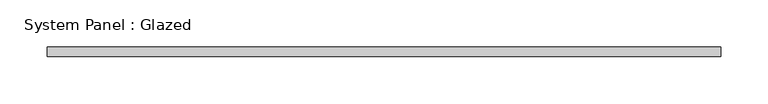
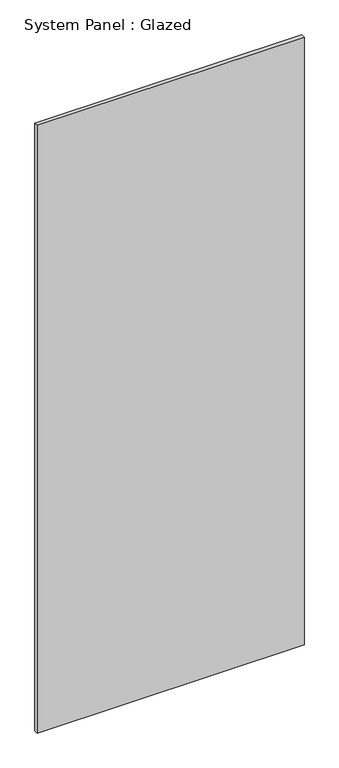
"""IFC4 building model written with IfcOpenShell, lengths in millimetres: plate geometry, System Panel : Glazed."""

from ifc_helpers import new_model, si_unit, origin, origin_with_axes, place, context, project, spatial, polyline, outline, extrude, source, transform, mapped, element, save


def system_panel_glazed_b3cc5cf8(model_context):
    return source(origin(), model_context, "Body", "SweptSolid", [
        extrude(outline(polyline([(355.875, -5.0), (-355.875, -5.0), (-355.875, 5.0), (355.875, 5.0), (355.875, -5.0)])), origin_with_axes(), (0.0, 0.0, 1.0), 1712.84856),
    ])


if __name__ == "__main__":
    model = new_model("IFC4")
    model_context = context("Model", 3, world=origin())
    ifc_project = project(units=[si_unit("LENGTHUNIT", "METRE", prefix="MILLI")], contexts=[model_context])
    site = spatial("IfcSite", under=ifc_project)
    building = spatial("IfcBuilding", under=site)
    placement = place(None, origin())
    system_panel_glazed_shape = system_panel_glazed_b3cc5cf8(model_context)
    element("IfcPlate", 1, ObjectType="System Panel : Glazed", at=placement, inside=building, context=model_context, shape_type="MappedRepresentation", body=[
        mapped(system_panel_glazed_shape, transform((0.0, 0.0, 0.0), x_axis=(1.0, 0.0, 0.0), y_axis=(0.0, 1.0, 0.0), z_axis=(0.0, 0.0, 1.0))),
    ])
    save(model, "model.ifc")
